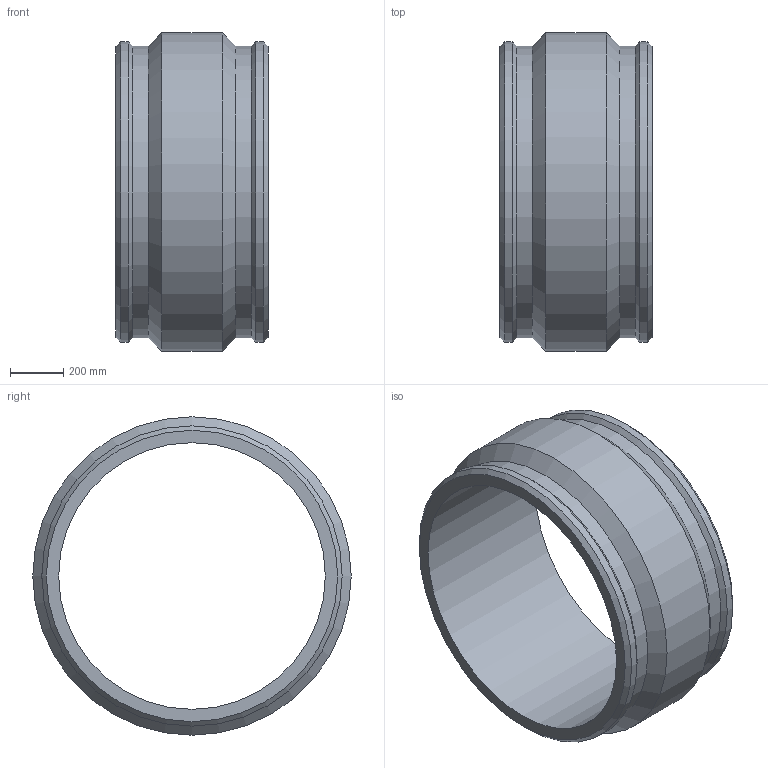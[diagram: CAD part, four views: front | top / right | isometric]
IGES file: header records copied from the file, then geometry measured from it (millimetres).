
Global section: file name: 4901031000.ipt; native system: Autodesk Inventor 2019; preprocessor: unknown; author: KIM; date: 20201207.204741; units: millimetre
Bounding box: 570 x 1194 x 1194 mm (x, y, z)
Volume: 142587806.5 mm3; surface area: 4398597.6 mm2
Topology: 1 solids, 1 shells, 28 faces, 52 edges, 30 vertices
Faces by surface type: cylinder 11, plane 8, cone 6, revolution 3
Full cylindrical faces by diameter (mm): 4 x2, 1092.22 x2, 1126 x2, 1194 x1
